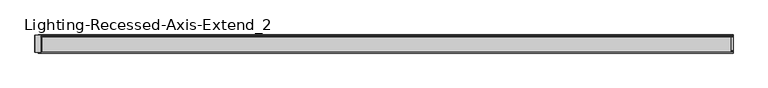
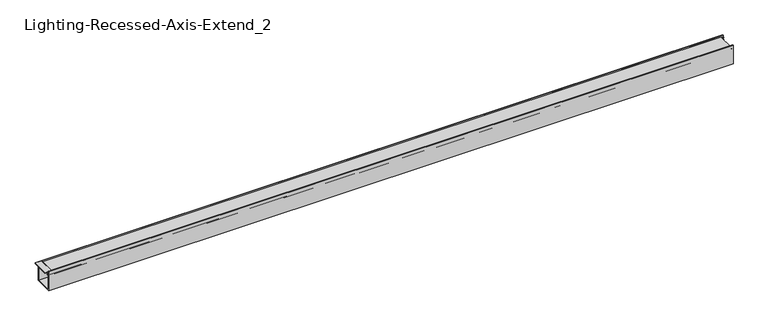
"""IFC4 building model written with IfcOpenShell, lengths in millimetres: light fixture geometry, Lighting-Recessed-Axis-Extend_2 : EX2R-900-80-35-SO-4."""

import ifcopenshell
import ifcopenshell.guid

model = None  # the IFC model being written
_history = None  # IfcOwnerHistory: only IFC2X3 demands one
_inside = {}  # id of a spatial element -> (the spatial element, [elements in it])
_under = {}  # id of a project, library or spatial element -> (it, [spatial elements below it])
_declared = {}  # id of a project -> (the project, [libraries it declares])
_typed = {}  # id of a type object -> (the type object, [elements of that type])
_made_of = {}  # id of a material, layer set ... -> (it, [elements and type objects made of it])


def new_model(schema):
    """Start an empty IFC model of exactly this schema.

    Asked for "IFC4X3", IfcOpenShell would pick the latest addendum, in which some entities
    have other attributes; the version numbers below select the first issue.
    IFC2X3 requires an IfcOwnerHistory on every rooted entity: one is made here for all.
    """
    global model, _history
    if schema == "IFC4X3":
        model = ifcopenshell.file(schema_version=(4, 3, 0, 0))
    else:
        model = ifcopenshell.file(schema=schema)
    _inside.clear()
    _under.clear()
    _declared.clear()
    _typed.clear()
    _made_of.clear()
    _history = None
    if model.schema == "IFC2X3":
        org = make("IfcOrganization", Name="unknown")
        user = make(
            "IfcPersonAndOrganization",
            ThePerson=make("IfcPerson", FamilyName="unknown"),
            TheOrganization=org,
        )
        app = make(
            "IfcApplication",
            ApplicationDeveloper=org,
            Version="unknown",
            ApplicationFullName="unknown",
            ApplicationIdentifier="unknown",
        )
        _history = make(
            "IfcOwnerHistory",
            OwningUser=user,
            OwningApplication=app,
            ChangeAction="ADDED",
            CreationDate=0,
        )
    return model


def make(cls, **values):
    """One entity of the class cls with the attributes given. An attribute that is None is left unset."""
    return model.create_entity(
        cls, **{name: value for name, value in values.items() if value is not None}
    )


def rooted(cls, **values):
    """An entity with a GlobalId (a new one), such as an element, a storey or a relation."""
    return make(cls, GlobalId=ifcopenshell.guid.new(), OwnerHistory=_history, **values)


def si_unit(unit_type, name, prefix=None):
    """IfcSIUnit, for example si_unit("LENGTHUNIT", "METRE", prefix="MILLI")."""
    return make("IfcSIUnit", UnitType=unit_type, Prefix=prefix, Name=name)


def assignment(units):
    """IfcUnitAssignment: the units of a project."""
    return None if units is None else make("IfcUnitAssignment", Units=units)


def point(xyz):
    """IfcCartesianPoint."""
    return None if xyz is None else make("IfcCartesianPoint", Coordinates=xyz)


def direction(xyz):
    """IfcDirection."""
    return None if xyz is None else make("IfcDirection", DirectionRatios=xyz)


def frame(location, z_axis=None, x_axis=None):
    """IfcAxis2Placement3D, a coordinate frame: its origin and axes. An axis left out is left unset."""
    return make(
        "IfcAxis2Placement3D",
        Location=point(location),
        Axis=direction(z_axis),
        RefDirection=direction(x_axis),
    )


def frame_2d(location, x_axis=None):
    """IfcAxis2Placement2D, a coordinate frame in the plane: its origin and x axis."""
    return make(
        "IfcAxis2Placement2D", Location=point(location), RefDirection=direction(x_axis)
    )


def origin():
    """The frame at (0, 0, 0) with its axes left unset."""
    return frame((0.0, 0.0, 0.0))


def place(relative_to, where):
    """IfcLocalPlacement: puts the frame where relative to a parent placement (None: the world)."""
    return make(
        "IfcLocalPlacement", PlacementRelTo=relative_to, RelativePlacement=where
    )


def context(
    kind, dimensions, precision=None, world=None, true_north=None, identifier=None
):
    """IfcGeometricRepresentationContext, for example the 3D "Model" context."""
    return make(
        "IfcGeometricRepresentationContext",
        ContextIdentifier=identifier,
        ContextType=kind,
        CoordinateSpaceDimension=dimensions,
        Precision=precision,
        WorldCoordinateSystem=world,
        TrueNorth=true_north,
    )


def project(units=None, contexts=None):
    """IfcProject with its units and contexts."""
    return rooted(
        "IfcProject",
        Name="project",
        RepresentationContexts=contexts,
        UnitsInContext=assignment(units),
    )


def spatial(cls, under=None, at=None, **own):
    """A site, building, storey or space (cls), placed at a placement, below another one or the project."""
    s = rooted(cls, ObjectPlacement=at, **own)
    if under is not None:
        _under.setdefault(under.id(), (under, []))[1].append(s)
    return s


def polyline(points):
    """IfcPolyline through the points."""
    return make("IfcPolyline", Points=[point(p) for p in points])


def circle_curve(where, radius):
    """IfcCircle in the frame where."""
    return make("IfcCircle", Position=where, Radius=radius)


def trimmed(basis, trim1, trim2, sense, master):
    """IfcTrimmedCurve: the piece of a basis curve between two trims."""
    return make(
        "IfcTrimmedCurve",
        BasisCurve=basis,
        Trim1=trim1,
        Trim2=trim2,
        SenseAgreement=sense,
        MasterRepresentation=master,
    )


def segment(curve, same_sense, transition):
    """IfcCompositeCurveSegment."""
    return make(
        "IfcCompositeCurveSegment",
        Transition=transition,
        SameSense=same_sense,
        ParentCurve=curve,
    )


def composite_curve(segments, self_intersect=None):
    """IfcCompositeCurve: segments joined end to end."""
    return make("IfcCompositeCurve", Segments=segments, SelfIntersect=self_intersect)


def outline(outer, holes=None, kind="AREA"):
    """IfcArbitraryClosedProfileDef: a profile drawn as a closed curve; with holes, ...WithVoids."""
    if holes is None:
        return make("IfcArbitraryClosedProfileDef", ProfileType=kind, OuterCurve=outer)
    return make(
        "IfcArbitraryProfileDefWithVoids",
        ProfileType=kind,
        OuterCurve=outer,
        InnerCurves=holes,
    )


def extrude(swept, where, along, depth):
    """IfcExtrudedAreaSolid: the profile swept, set in the frame where, extruded along a direction by depth."""
    return make(
        "IfcExtrudedAreaSolid",
        SweptArea=swept,
        Position=where,
        ExtrudedDirection=direction(along),
        Depth=depth,
    )


def shape(context_of_items, identifier, shape_type, items):
    """IfcShapeRepresentation: the items that make up one representation, for example the "Body"."""
    return make(
        "IfcShapeRepresentation",
        ContextOfItems=context_of_items,
        RepresentationIdentifier=identifier,
        RepresentationType=shape_type,
        Items=items,
    )


def source(mapping_origin, context_of_items, identifier, shape_type, items):
    """IfcRepresentationMap: a shape defined once, which mapped items show again and again."""
    return make(
        "IfcRepresentationMap",
        MappingOrigin=mapping_origin,
        MappedRepresentation=shape(context_of_items, identifier, shape_type, items),
    )


def transform(
    local_origin,
    x_axis=None,
    y_axis=None,
    z_axis=None,
    scale=None,
    scale2=None,
    scale3=None,
    uniform=True,
):
    """IfcCartesianTransformationOperator3D, or its non-uniform kind. x_axis, y_axis, z_axis: its Axis1, 2, 3."""
    if uniform:
        return make(
            "IfcCartesianTransformationOperator3D",
            Axis1=direction(x_axis),
            Axis2=direction(y_axis),
            LocalOrigin=point(local_origin),
            Scale=scale,
            Axis3=direction(z_axis),
        )
    return make(
        "IfcCartesianTransformationOperator3DnonUniform",
        Axis1=direction(x_axis),
        Axis2=direction(y_axis),
        LocalOrigin=point(local_origin),
        Scale=scale,
        Axis3=direction(z_axis),
        Scale2=scale2,
        Scale3=scale3,
    )


def mapped(mapping_source, mapping_target):
    """IfcMappedItem: shows the shape of a source again, moved by a transform."""
    return make(
        "IfcMappedItem", MappingSource=mapping_source, MappingTarget=mapping_target
    )


def made_of(thing, what):
    """Note that an element or type object is made of a material, layer set ...; save() writes the relation."""
    if what is not None:
        _made_of.setdefault(what.id(), (what, []))[1].append(thing)
    return thing


def element(
    cls,
    number,
    at=None,
    inside=None,
    cuts=None,
    type_object=None,
    material=None,
    context=None,
    identifier="Body",
    shape_type=None,
    held_by="IfcProductDefinitionShape",
    body=None,
    shapes=None,
    **own,
):
    """One element of the class cls, such as IfcWall. Its Tag is "e" and its number.

    at: its placement. inside: the storey or other place that contains it. cuts: it is an
    opening in that element (IfcRelVoidsElement). A single representation is given by context,
    identifier, shape_type and body (its items); several are given by shapes. held_by: the class
    of the entity that holds the representations. save() writes the other relations.
    """
    e = rooted(cls, Tag="e%d" % number, ObjectPlacement=at, **own)
    if body is not None:
        shapes = [shape(context, identifier, shape_type, body)]
    if shapes is not None:
        e.Representation = make(held_by, Representations=shapes)
    if inside is not None:
        _inside.setdefault(inside.id(), (inside, []))[1].append(e)
    if cuts is not None:
        rooted(
            "IfcRelVoidsElement", RelatingBuildingElement=cuts, RelatedOpeningElement=e
        )
    if type_object is not None:
        _typed.setdefault(type_object.id(), (type_object, []))[1].append(e)
    return made_of(e, material)


def aggregate(whole, parts):
    """IfcRelAggregates: a whole, such as a stair, and the parts it consists of."""
    return rooted("IfcRelAggregates", RelatingObject=whole, RelatedObjects=parts)


def save(model, path):
    """Write the relations noted so far, then the file.

    IfcRelAggregates (storeys below a building ...), IfcRelContainedInSpatialStructure (elements
    in a storey), IfcRelDefinesByType, IfcRelAssociatesMaterial and IfcRelDeclares: one each for
    every whole, place, type object, material and project.
    """
    for whole, parts in _under.values():
        aggregate(whole, parts)
    for where, things in _inside.values():
        rooted(
            "IfcRelContainedInSpatialStructure",
            RelatedElements=things,
            RelatingStructure=where,
        )
    for kind, things in _typed.values():
        rooted("IfcRelDefinesByType", RelatedObjects=things, RelatingType=kind)
    for what, things in _made_of.values():
        rooted("IfcRelAssociatesMaterial", RelatedObjects=things, RelatingMaterial=what)
    for by, libraries in _declared.values():
        rooted("IfcRelDeclares", RelatingContext=by, RelatedDefinitions=libraries)
    model.write(path)


def lighting_recessed_axis_extend_2_076d793f(model_context):
    return source(origin(), model_context, "Body", "SweptSolid", [
        extrude(outline(polyline([(-1.1017139, -1216.2536), (0.0, -1217.1781437), (0.0, -1239.5352563), (-1.1017139, -1240.4598), (-2.57175, -1240.4598), (-2.57175, -1239.66605), (-1.778, -1239.66605), (-1.778, -1233.1954), (-4.5842019, -1233.1954), (-4.5842019, -1223.518), (-1.778, -1223.518), (-1.778, -1217.04735), (-2.57175, -1217.04735), (-2.57175, -1216.2536), (-1.1017139, -1216.2536)])), frame((0.0, -29.972, 0.0), z_axis=(0.0, 1.0, 0.0), x_axis=(0.0, 0.0, 1.0)), (0.0, 0.0, 1.0), 59.944),
        extrude(outline(composite_curve([segment(polyline([(-24.1727262, -4.8895009), (-24.5114181, -11.3521263)]), True, "CONTINUOUS"), segment(trimmed(circle_curve(frame_2d((-27.2542, -14.351)), 4.064), [point((-24.5114181, -11.3521263))], [point((-25.3818814, -17.9580097))], False, "CARTESIAN"), True, "CONTINUOUS"), segment(trimmed(circle_curve(frame_2d((-22.149344, -17.1691543)), 3.3274001), [point((-25.3818814, -17.9580097))], [point((-24.5665956, -19.4557425))], True, "CARTESIAN"), True, "CONTINUOUS"), segment(trimmed(circle_curve(frame_2d((-17.1303177, -12.4214292)), 10.2362001), [point((-24.5665956, -19.4557425))], [point((-23.2119066, -20.6551445))], True, "CARTESIAN"), True, "CONTINUOUS"), segment(trimmed(circle_curve(frame_2d((-23.7023573, -21.3191538)), 0.8255), [point((-23.2119066, -20.6551445))], [point((-24.192808, -21.9831631))], False, "CARTESIAN"), True, "CONTINUOUS"), segment(trimmed(circle_curve(frame_2d((-17.1303169, -12.4214283)), 11.8872013), [point((-24.192808, -21.9831631))], [point((-25.7659952, -20.5903092))], False, "CARTESIAN"), True, "CONTINUOUS"), segment(trimmed(circle_curve(frame_2d((-22.149344, -17.1691543)), 4.9784001), [point((-25.7659952, -20.5903092))], [point((-27.1108807, -16.75974))], False, "CARTESIAN"), True, "CONTINUOUS"), segment(trimmed(circle_curve(frame_2d((-27.2542, -14.351)), 2.413), [point((-27.1108807, -16.75974))], [point((-25.4753941, -12.7205342))], True, "CARTESIAN"), True, "CONTINUOUS"), segment(trimmed(circle_curve(frame_2d((-23.6029669, -11.0042544)), 2.54), [point((-25.4753941, -12.7205342))], [point((-26.1394859, -10.8713211))], False, "CARTESIAN"), True, "CONTINUOUS"), segment(polyline([(-26.1394859, -10.8713211), (-25.825992, -4.8895009), (-28.829, -4.8895009), (-28.829, -2.9845), (28.829, -2.9845), (28.829, -4.8895009), (25.825992, -4.8895009), (26.1394859, -10.8713211)]), True, "CONTINUOUS"), segment(trimmed(circle_curve(frame_2d((23.6029669, -11.0042544)), 2.54), [point((26.1394859, -10.8713211))], [point((25.4753941, -12.7205342))], False, "CARTESIAN"), True, "CONTINUOUS"), segment(trimmed(circle_curve(frame_2d((27.2542, -14.351)), 2.413), [point((25.4753941, -12.7205342))], [point((27.1108807, -16.75974))], True, "CARTESIAN"), True, "CONTINUOUS"), segment(trimmed(circle_curve(frame_2d((22.149344, -17.1691543)), 4.9784001), [point((27.1108807, -16.75974))], [point((25.7659952, -20.5903092))], False, "CARTESIAN"), True, "CONTINUOUS"), segment(trimmed(circle_curve(frame_2d((17.1303169, -12.4214283)), 11.8872013), [point((25.7659952, -20.5903092))], [point((24.192808, -21.9831631))], False, "CARTESIAN"), True, "CONTINUOUS"), segment(trimmed(circle_curve(frame_2d((23.7023573, -21.3191538)), 0.8255), [point((24.192808, -21.9831631))], [point((23.2119066, -20.6551445))], False, "CARTESIAN"), True, "CONTINUOUS"), segment(trimmed(circle_curve(frame_2d((17.1303177, -12.4214292)), 10.2362001), [point((23.2119066, -20.6551445))], [point((24.5665956, -19.4557425))], True, "CARTESIAN"), True, "CONTINUOUS"), segment(trimmed(circle_curve(frame_2d((22.149344, -17.1691543)), 3.3274001), [point((24.5665956, -19.4557425))], [point((25.3818814, -17.9580097))], True, "CARTESIAN"), True, "CONTINUOUS"), segment(trimmed(circle_curve(frame_2d((27.2542, -14.351)), 4.064), [point((25.3818814, -17.9580097))], [point((24.5114181, -11.3521263))], False, "CARTESIAN"), True, "CONTINUOUS"), segment(polyline([(24.5114181, -11.3521263), (24.1727262, -4.8895009), (-24.1727262, -4.8895009)]), True, "CONTINUOUS")], self_intersect=False)), frame((-1219.2, 0.0, 0.0), z_axis=(1.0, 0.0, 0.0), x_axis=(0.0, 1.0, 0.0)), (0.0, 0.0, 1.0), 2438.4),
        extrude(outline(composite_curve([segment(polyline([(-29.972, -14.9098), (-29.972, -69.4055), (29.972, -69.4055), (29.972, -14.9098), (28.1325797, -14.9098)]), True, "CONTINUOUS"), segment(trimmed(circle_curve(frame_2d((26.6262297, -14.9098)), 1.5063501), [point((28.1325797, -14.9098))], [point((25.8730546, -16.2143374))], False, "CARTESIAN"), True, "CONTINUOUS"), segment(trimmed(circle_curve(frame_2d((27.0642121, -14.1511921)), 2.382315), [point((25.8730546, -16.2143374))], [point((24.6896516, -13.9591318))], False, "CARTESIAN"), True, "CONTINUOUS"), segment(polyline([(24.6896516, -13.9591318), (28.067, -11.1252), (28.067, -12.8778), (29.972, -12.8778), (29.972, -6.35), (28.067, -6.35), (28.067, -7.874), (26.416, -7.7874748), (26.416, -5.08), (29.972, -5.08), (29.972, 0.0), (32.004, 0.0), (32.004, -71.4375), (-32.004, -71.4375), (-32.004, 0.0), (-29.972, 0.0), (-29.972, -5.08), (-26.416, -5.08), (-26.416, -7.7874748), (-28.067, -7.874), (-28.067, -6.35), (-29.972, -6.35), (-29.972, -12.8778), (-28.067, -12.8778), (-28.067, -11.1252), (-24.6896516, -13.9591318)]), True, "CONTINUOUS"), segment(trimmed(circle_curve(frame_2d((-27.0642121, -14.1511921)), 2.382315), [point((-24.6896516, -13.9591318))], [point((-25.8730546, -16.2143374))], False, "CARTESIAN"), True, "CONTINUOUS"), segment(trimmed(circle_curve(frame_2d((-26.6262297, -14.9098)), 1.5063501), [point((-25.8730546, -16.2143374))], [point((-28.1325797, -14.9098))], False, "CARTESIAN"), True, "CONTINUOUS"), segment(polyline([(-28.1325797, -14.9098), (-29.972, -14.9098)]), True, "CONTINUOUS")], self_intersect=False)), frame((-1228.3567, 0.0, 0.0), z_axis=(1.0, 0.0, 0.0), x_axis=(0.0, 1.0, 0.0)), (0.0, 0.0, 1.0), 2456.7134),
    ])


if __name__ == "__main__":
    model = new_model("IFC4")
    model_context = context("Model", 3, world=origin())
    ifc_project = project(units=[si_unit("LENGTHUNIT", "METRE", prefix="MILLI")], contexts=[model_context])
    site = spatial("IfcSite", under=ifc_project)
    building = spatial("IfcBuilding", under=site)
    placement = place(None, origin())
    lighting_recessed_axis_extend_2_shape = lighting_recessed_axis_extend_2_076d793f(model_context)
    element("IfcLightFixture", 1, ObjectType="Lighting-Recessed-Axis-Extend_2 : EX2R-900-80-35-SO-4", at=placement, inside=building, context=model_context, shape_type="MappedRepresentation", body=[
        mapped(lighting_recessed_axis_extend_2_shape, transform((0.0, 0.0, 0.0), x_axis=(1.0, 0.0, 0.0), y_axis=(0.0, 1.0, 0.0), z_axis=(0.0, 0.0, 1.0))),
    ])
    save(model, "model.ifc")
